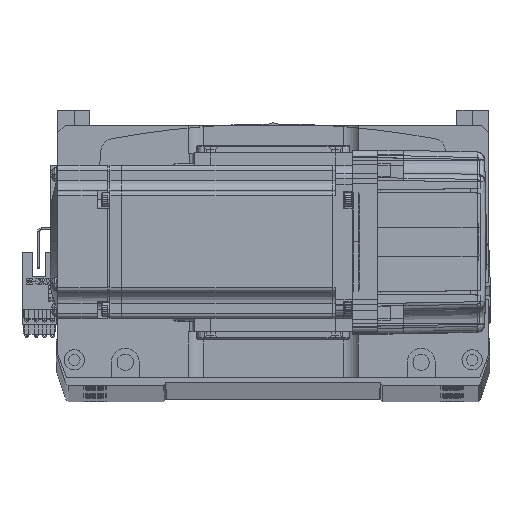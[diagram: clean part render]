
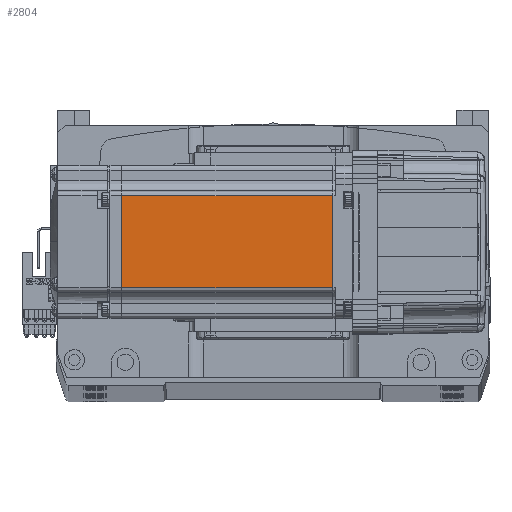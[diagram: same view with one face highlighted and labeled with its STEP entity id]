
A CAD part, top view. The second image highlights one B-rep face of the part: STEP entity #2804.
In plain terms, the highlighted planar face has unit normal (0, 0, 1).
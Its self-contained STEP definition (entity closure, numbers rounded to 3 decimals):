
#1972 = LINE ( 'NONE', #26171, #49318 ) ;
#2435 = EDGE_CURVE ( 'NONE', #7055, #25640, #5551, .T. ) ;
#2802 = VECTOR ( 'NONE', #72748, 1000. ) ;
#2804 = ADVANCED_FACE ( 'NONE', ( #53663 ), #37719, .T. ) ;
#3121 = AXIS2_PLACEMENT_3D ( 'NONE', #20464, #60457, #71940 ) ;
#5551 = LINE ( 'NONE', #61307, #2802 ) ;
#6543 = CARTESIAN_POINT ( 'NONE',  ( -90.45, -18., 30. ) ) ;
#7055 = VERTEX_POINT ( 'NONE', #52380 ) ;
#11671 = VERTEX_POINT ( 'NONE', #53942 ) ;
#17170 = ORIENTED_EDGE ( 'NONE', *, *, #25938, .F. ) ;
#20464 = CARTESIAN_POINT ( 'NONE',  ( -6.5, -25., 30. ) ) ;
#21846 = LINE ( 'NONE', #31879, #51329 ) ;
#25640 = VERTEX_POINT ( 'NONE', #6543 ) ;
#25938 = EDGE_CURVE ( 'NONE', #27250, #7055, #1972, .T. ) ;
#26171 = CARTESIAN_POINT ( 'NONE',  ( -7.75, 0., 30. ) ) ;
#27250 = VERTEX_POINT ( 'NONE', #51956 ) ;
#31879 = CARTESIAN_POINT ( 'NONE',  ( -6.5, 18., 30. ) ) ;
#37719 = PLANE ( 'NONE',  #3121 ) ;
#38765 = EDGE_CURVE ( 'NONE', #11671, #25640, #40973, .T. ) ;
#40973 = LINE ( 'NONE', #59263, #62456 ) ;
#42625 = DIRECTION ( 'NONE',  ( -1., 0., 0. ) ) ;
#46885 = ORIENTED_EDGE ( 'NONE', *, *, #60257, .T. ) ;
#49318 = VECTOR ( 'NONE', #66188, 1000. ) ;
#51329 = VECTOR ( 'NONE', #42625, 1000. ) ;
#51956 = CARTESIAN_POINT ( 'NONE',  ( -7.75, 18., 30. ) ) ;
#52380 = CARTESIAN_POINT ( 'NONE',  ( -7.75, -18., 30. ) ) ;
#53663 = FACE_OUTER_BOUND ( 'NONE', #57982, .T. ) ;
#53942 = CARTESIAN_POINT ( 'NONE',  ( -90.45, 18., 30. ) ) ;
#57982 = EDGE_LOOP ( 'NONE', ( #17170, #46885, #59863, #64712 ) ) ;
#59263 = CARTESIAN_POINT ( 'NONE',  ( -90.45, 0., 30. ) ) ;
#59863 = ORIENTED_EDGE ( 'NONE', *, *, #38765, .T. ) ;
#60251 = DIRECTION ( 'NONE',  ( 0., -1., 0. ) ) ;
#60257 = EDGE_CURVE ( 'NONE', #27250, #11671, #21846, .T. ) ;
#60457 = DIRECTION ( 'NONE',  ( 0., 0., 1. ) ) ;
#61307 = CARTESIAN_POINT ( 'NONE',  ( -6.5, -18., 30. ) ) ;
#62456 = VECTOR ( 'NONE', #60251, 1000. ) ;
#64712 = ORIENTED_EDGE ( 'NONE', *, *, #2435, .F. ) ;
#66188 = DIRECTION ( 'NONE',  ( 0., -1., 0. ) ) ;
#71940 = DIRECTION ( 'NONE',  ( 1., 0., 0. ) ) ;
#72748 = DIRECTION ( 'NONE',  ( -1., 0., 0. ) ) ;
